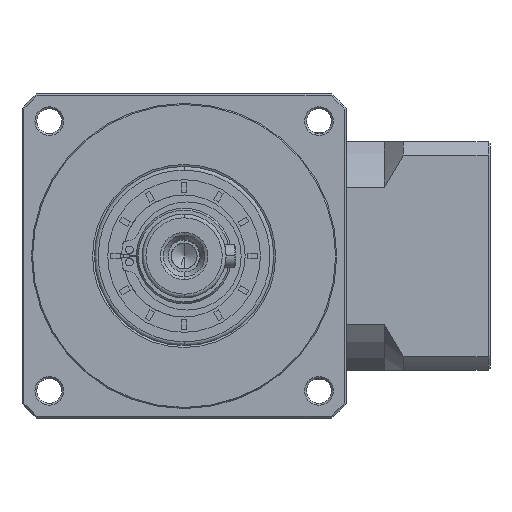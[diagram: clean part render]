
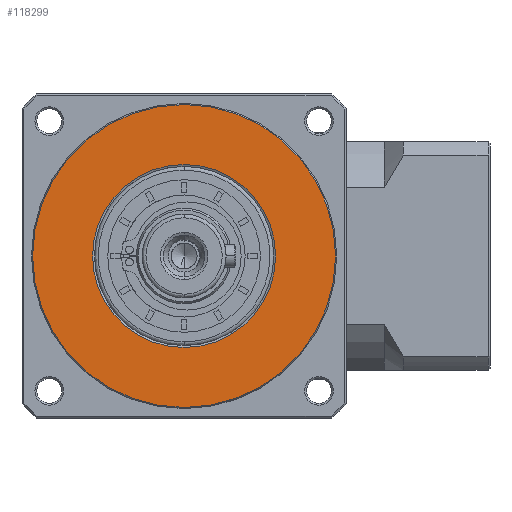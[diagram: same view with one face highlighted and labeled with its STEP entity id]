
A CAD part, left-side view. The second image highlights one B-rep face of the part: STEP entity #118299.
In plain terms, the highlighted planar face has unit normal (-1, 0, 0).
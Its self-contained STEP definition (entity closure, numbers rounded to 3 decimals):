
#2583 = DIRECTION ( 'NONE',  ( 0., 0., -1. ) ) ;
#4873 = CARTESIAN_POINT ( 'NONE',  ( -174.343, 153.179, 43.294 ) ) ;
#18496 = DIRECTION ( 'NONE',  ( 0., 0., -1. ) ) ;
#20400 = DIRECTION ( 'NONE',  ( 1., 0., 0. ) ) ;
#24636 = EDGE_CURVE ( 'NONE', #60734, #150460, #150826, .T. ) ;
#24709 = CIRCLE ( 'NONE', #133872, 39.711 ) ;
#29009 = EDGE_LOOP ( 'NONE', ( #46297, #154292 ) ) ;
#32315 = CARTESIAN_POINT ( 'NONE',  ( -174.343, 192.89, 43.294 ) ) ;
#35987 = CARTESIAN_POINT ( 'NONE',  ( -174.343, 153.179, 67.294 ) ) ;
#37932 = CARTESIAN_POINT ( 'NONE',  ( -174.343, 153.179, 19.294 ) ) ;
#39748 = CIRCLE ( 'NONE', #139999, 39.711 ) ;
#40215 = CARTESIAN_POINT ( 'NONE',  ( -174.343, 153.179, 43.294 ) ) ;
#46297 = ORIENTED_EDGE ( 'NONE', *, *, #137379, .T. ) ;
#48426 = VERTEX_POINT ( 'NONE', #143235 ) ;
#51325 = AXIS2_PLACEMENT_3D ( 'NONE', #101805, #20400, #115463 ) ;
#52886 = VERTEX_POINT ( 'NONE', #32315 ) ;
#53890 = DIRECTION ( 'NONE',  ( 0., 1., 0. ) ) ;
#55675 = AXIS2_PLACEMENT_3D ( 'NONE', #165260, #83946, #2583 ) ;
#60734 = VERTEX_POINT ( 'NONE', #35987 ) ;
#67564 = DIRECTION ( 'NONE',  ( 1., 0., 0. ) ) ;
#68092 = AXIS2_PLACEMENT_3D ( 'NONE', #4873, #99869, #18496 ) ;
#68863 = ORIENTED_EDGE ( 'NONE', *, *, #157601, .F. ) ;
#83946 = DIRECTION ( 'NONE',  ( 1., 0., 0. ) ) ;
#99869 = DIRECTION ( 'NONE',  ( -1., 0., 0. ) ) ;
#101805 = CARTESIAN_POINT ( 'NONE',  ( -174.343, 153.179, 43.294 ) ) ;
#112942 = PLANE ( 'NONE',  #68092 ) ;
#114548 = ORIENTED_EDGE ( 'NONE', *, *, #142812, .F. ) ;
#115463 = DIRECTION ( 'NONE',  ( 0., 0., -1. ) ) ;
#116865 = EDGE_LOOP ( 'NONE', ( #114548, #68863 ) ) ;
#118299 = ADVANCED_FACE ( 'NONE', ( #119484, #155603 ), #112942, .T. ) ;
#119484 = FACE_OUTER_BOUND ( 'NONE', #116865, .T. ) ;
#133872 = AXIS2_PLACEMENT_3D ( 'NONE', #148889, #67564, #162450 ) ;
#135238 = DIRECTION ( 'NONE',  ( 1., 0., 0. ) ) ;
#137379 = EDGE_CURVE ( 'NONE', #150460, #60734, #158802, .T. ) ;
#139999 = AXIS2_PLACEMENT_3D ( 'NONE', #40215, #135238, #53890 ) ;
#142812 = EDGE_CURVE ( 'NONE', #52886, #48426, #24709, .T. ) ;
#143235 = CARTESIAN_POINT ( 'NONE',  ( -174.343, 113.467, 43.294 ) ) ;
#148889 = CARTESIAN_POINT ( 'NONE',  ( -174.343, 153.179, 43.294 ) ) ;
#150460 = VERTEX_POINT ( 'NONE', #37932 ) ;
#150826 = CIRCLE ( 'NONE', #55675, 24. ) ;
#154292 = ORIENTED_EDGE ( 'NONE', *, *, #24636, .T. ) ;
#155603 = FACE_BOUND ( 'NONE', #29009, .T. ) ;
#157601 = EDGE_CURVE ( 'NONE', #48426, #52886, #39748, .T. ) ;
#158802 = CIRCLE ( 'NONE', #51325, 24. ) ;
#162450 = DIRECTION ( 'NONE',  ( 0., 1., 0. ) ) ;
#165260 = CARTESIAN_POINT ( 'NONE',  ( -174.343, 153.179, 43.294 ) ) ;
